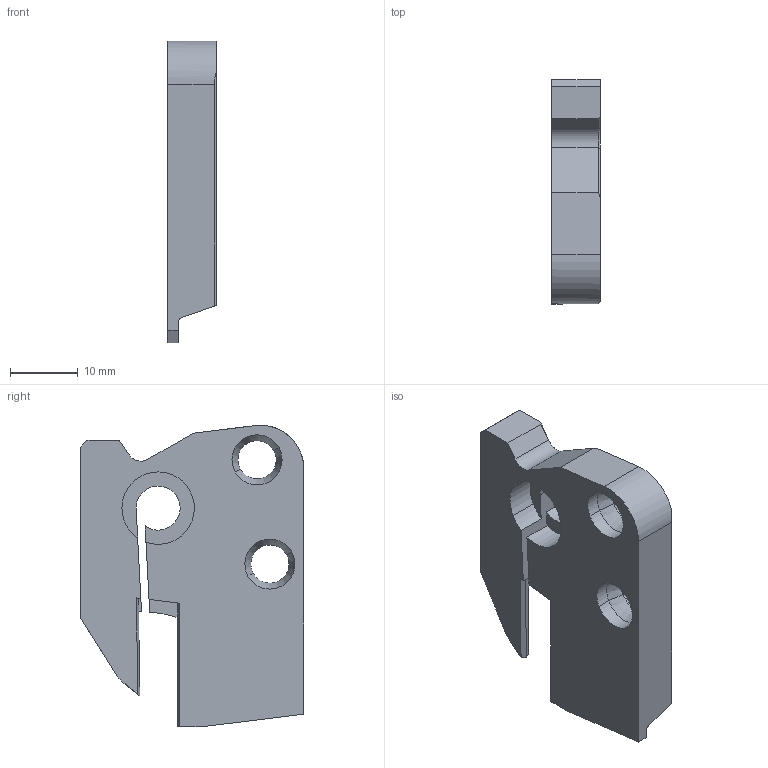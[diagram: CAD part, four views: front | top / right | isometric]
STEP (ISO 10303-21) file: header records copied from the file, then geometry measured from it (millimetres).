
FILE_DESCRIPTION(('CATIA V5 STEP','CAx-IF Rec.Pracs.--- Model Styling and Organization---1.2---2011-12-15'),'2;1');
FILE_NAME('N:\data\isr\design\special1\users\NATALY_B\Tal\NPA\2393886\DGPAD 2R-D32-JHP.stp','2014-09-10T08:09:56+00:00',('none'),('none'),'CATIA Version 5 Release 21 SP 5 (IN-10)','CATIA V5 STEP AP214','none');
FILE_SCHEMA(('AUTOMOTIVE_DESIGN { 1 0 10303 214 1 1 1 1 }'));
Length unit declared in the file: millimetre
Products named in the file (1): DGPAD 2R-D32-JHP
Bounding box: 7.2 x 33 x 44.49 mm (x, y, z)
Volume: 6134.2 mm3; surface area: 3803 mm2
Topology: 1 solids, 1 shells, 69 faces, 188 edges, 121 vertices
Faces by surface type: plane 33, cylinder 26, cone 9, torus 1
Entity records: 2200 total; most frequent: CARTESIAN_POINT 538, ORIENTED_EDGE 372, DIRECTION 275, EDGE_CURVE 186, VERTEX_POINT 121, VECTOR 117, LINE 117, AXIS2_PLACEMENT_3D 105
